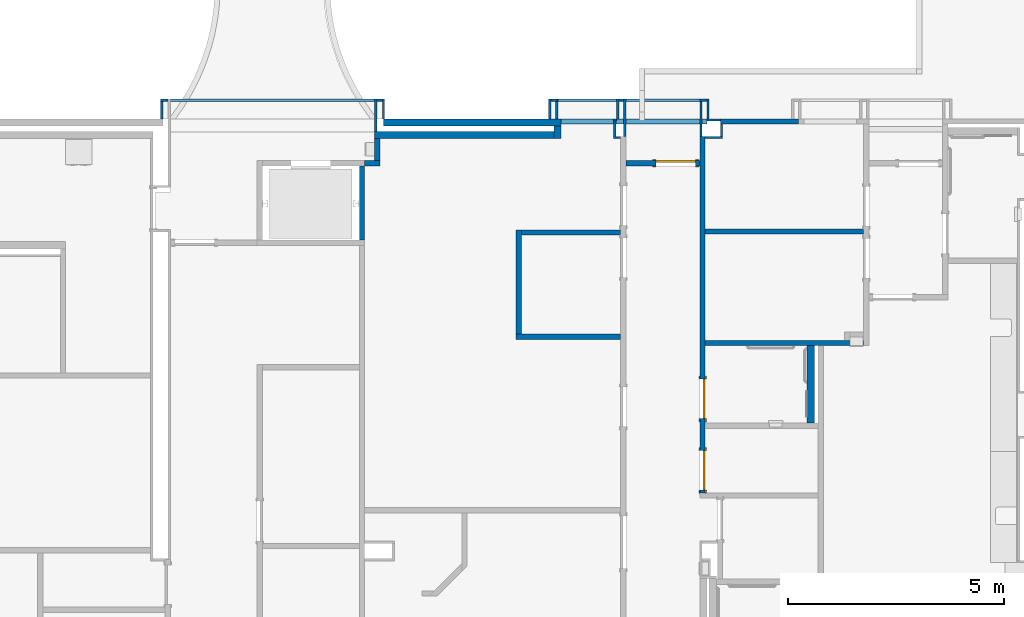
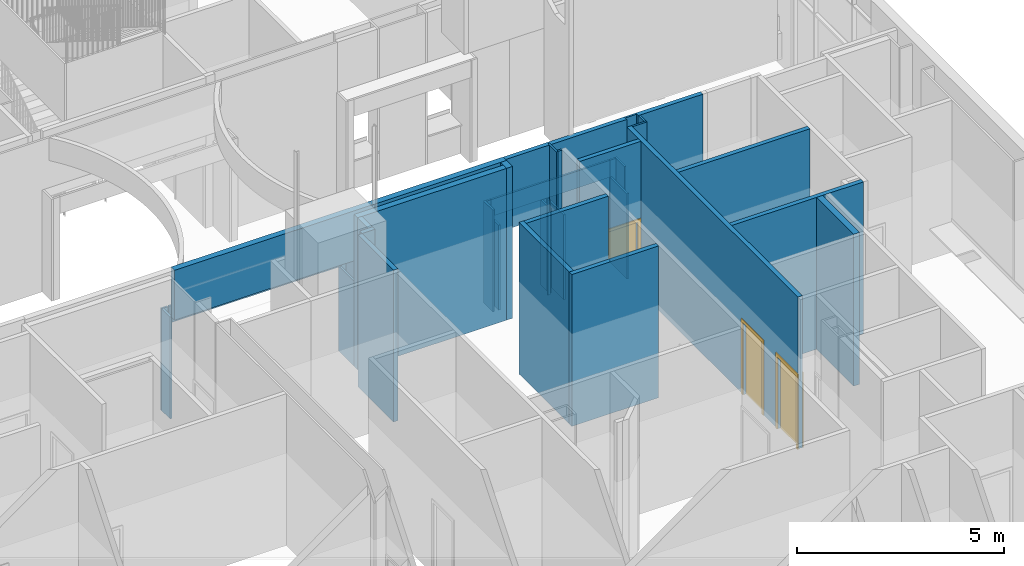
# One storey, part 36 of 87: 38 walls, 3 doors, 4 openings.
"""IFC2X3 building model written with IfcOpenShell, lengths in metres."""

from ifc_helpers import new_model, entity, si_unit, converted_unit, frame, frame_2d, origin, origin_2d_with_axis, place, context, project, spatial, polyline, rectangle, outline, extrude, clip, halfspace, source, transform, mapped, material, layer, layer_set, layer_usage, type_object, type_shapes, element, fill, save


model = new_model("IFC2X3")

# Units and contexts
model_context = context("Model", 3, precision=1e-09, world=origin())
plan_context = context("Plan", 3, precision=1e-09, world=origin())
ifc_project = project(units=[si_unit("LENGTHUNIT", "METRE"), si_unit("AREAUNIT", "SQUARE_METRE"), si_unit("VOLUMEUNIT", "CUBIC_METRE"), converted_unit("PLANEANGLEUNIT", "DEGREE", entity("IfcRatioMeasure", 0.01745329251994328), si_unit("PLANEANGLEUNIT", "RADIAN"), dimensions=[0, 0, 0, 0, 0, 0, 0]), si_unit("TIMEUNIT", "SECOND")], contexts=[model_context, plan_context])

# Site, building, storey
site_placement = place(None, origin())
site = spatial("IfcSite", under=ifc_project, at=site_placement, Name="Default", CompositionType="ELEMENT")
building_placement = place(site_placement, origin())
building = spatial("IfcBuilding", under=site, at=building_placement, CompositionType="ELEMENT")
storey_placement = place(building_placement, origin())
storey = spatial("IfcBuildingStorey", under=building, at=storey_placement, Name="First Floor", CompositionType="ELEMENT", Elevation=-3.531500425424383e-13)

# Walls
ifc_material_1 = material(Name="Plasterboard")
ifc_layer_1 = layer(ifc_material_1, 0.016)
ifc_material_2 = material(Name="Metal - Stud Layer")
ifc_layer_2 = layer(ifc_material_2, 0.092)
ifc_layer_3 = layer(ifc_material_1, 0.016)
ifc_layer_set_1 = layer_set([ifc_layer_1, ifc_layer_2, ifc_layer_3], Name="Basic Wall:Interior - Partition (92mm Stud)")
ifc_layer_usage_1 = layer_usage(ifc_layer_set_1, "AXIS2", "NEGATIVE", 0.062)
wall_1_placement = place(storey_placement, frame((-3.793975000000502, 23.42199999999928, 0.0), z_axis=(0.0, 0.0, 1.0), x_axis=(-1.0, 0.0, 0.0)))
element("IfcWallStandardCase", 1, at=wall_1_placement, inside=storey, material=ifc_layer_usage_1, Name="Basic Wall:Interior - Partition (92mm Stud)", ObjectType="Basic Wall:Interior - Partition (92mm Stud)", context=model_context, shape_type="SweptSolid", body=[
    extrude(rectangle(XDim=3.662000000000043, YDim=0.1239999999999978, at=frame_2d((1.831000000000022, 0.0), x_axis=(-1.0, 0.0))), origin(), (0.0, 0.0, 1.0), 4.46800000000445),
])
ifc_layer_usage_2 = layer_usage(ifc_layer_set_1, "AXIS2", "NEGATIVE", 0.062)
wall_2_placement = place(storey_placement, frame((-3.793975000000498, 26.00199999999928, 0.0), z_axis=(0.0, 0.0, 1.0), x_axis=(-1.0, 0.0, 0.0)))
element("IfcWallStandardCase", 2, at=wall_2_placement, inside=storey, material=ifc_layer_usage_2, Name="Basic Wall:Interior - Partition (92mm Stud)", ObjectType="Basic Wall:Interior - Partition (92mm Stud)", context=model_context, shape_type="SweptSolid", body=[
    extrude(rectangle(XDim=3.662000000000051, YDim=0.1239999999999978, at=frame_2d((1.831000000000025, 0.0), x_axis=(-1.0, 0.0))), origin(), (0.0, 0.0, 1.0), 4.46800000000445),
])
ifc_layer_usage_3 = layer_usage(ifc_layer_set_1, "AXIS2", "NEGATIVE", 0.062)
wall_3_placement = place(storey_placement, frame((-5.270722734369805, 28.54799999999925, 0.0), z_axis=(0.0, 0.0, 1.0), x_axis=(-1.0, 0.0, 0.0)))
element("IfcWallStandardCase", 3, at=wall_3_placement, inside=storey, material=ifc_layer_usage_3, Name="Basic Wall:Interior - Partition (92mm Stud)", ObjectType="Basic Wall:Interior - Partition (92mm Stud)", context=model_context, shape_type="SweptSolid", body=[
    extrude(rectangle(XDim=1.806277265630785, YDim=0.1240000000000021, at=frame_2d((0.9301386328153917, 0.0), x_axis=(-1.0, 0.0))), origin(), (0.0, 0.0, 1.0), 4.468000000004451),
])
ifc_layer_4 = layer(ifc_material_2, 0.038)
ifc_layer_5 = layer(ifc_material_1, 0.016)
ifc_layer_set_2 = layer_set([ifc_layer_4, ifc_layer_5], Name="Basic Wall:Interior - Furring (38 mm Stud)")
ifc_layer_usage_4 = layer_usage(ifc_layer_set_2, "AXIS2", "POSITIVE", -0.027)
wall_4_placement = place(storey_placement, frame((-7.418975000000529, 28.58299999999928, 0.0)))
element("IfcWallStandardCase", 4, at=wall_4_placement, inside=storey, material=ifc_layer_usage_4, Name="Basic Wall:Interior - Furring (38 mm Stud)", ObjectType="Basic Wall:Interior - Furring (38 mm Stud)", context=model_context, shape_type="SweptSolid", body=[
    extrude(rectangle(XDim=0.3149749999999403, YDim=0.05400000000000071, at=frame_2d((0.1574874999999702, 0.0), x_axis=(-1.0, 0.0))), origin(), (0.0, 0.0, 1.0), 4.46800000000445),
])

# Wall, openings, doors
ifc_layer_usage_5 = layer_usage(ifc_layer_set_1, "AXIS2", "NEGATIVE", 0.062)
wall_5_placement = place(storey_placement, frame((-7.517975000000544, 19.95399999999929, 0.0), z_axis=(0.0, 0.0, 1.0), x_axis=(0.0, 1.0, 0.0)))
wall_5 = element("IfcWallStandardCase", 5, at=wall_5_placement, inside=storey, material=ifc_layer_usage_5, Name="Basic Wall:Interior - Partition (92mm Stud)", ObjectType="Basic Wall:Interior - Partition (92mm Stud)", context=model_context, shape_type="SweptSolid", body=[
    extrude(rectangle(XDim=8.250000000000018, YDim=0.124, at=frame_2d((4.125000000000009, 0.0), x_axis=(-1.0, 0.0))), origin(), (0.0, 0.0, 1.0), 4.46800000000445),
])
opening_1_placement = place(wall_5_placement, frame((2.630999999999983, 0.06200000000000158, 0.0)))
opening_1 = element("IfcOpeningElement", 6, at=opening_1_placement, cuts=wall_5, Name="M_Single-Flush:0915 x 2134mm:0915 x 2134mm:1", ObjectType="Opening", context=model_context, shape_type="SweptSolid", body=[
    extrude(rectangle(XDim=0.9149999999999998, YDim=2.134, at=frame_2d((1.067, 0.4575), x_axis=(0.0, 1.0))), frame((0.0, 0.0, 0.0), z_axis=(0.0, -1.0, 0.0), x_axis=(0.0, 0.0, 1.0)), (0.0, 0.0, 1.0), 0.124),
])
opening_2_placement = place(wall_5_placement, frame((0.9749999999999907, 0.06200000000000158, 0.0)))
opening_2 = element("IfcOpeningElement", 7, at=opening_2_placement, cuts=wall_5, Name="M_Single-Flush:0915 x 2134mm:0915 x 2134mm:1", ObjectType="Opening", context=model_context, shape_type="SweptSolid", body=[
    extrude(rectangle(XDim=0.9149999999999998, YDim=2.134, at=frame_2d((1.067, 0.4575), x_axis=(0.0, 1.0))), frame((0.0, 0.0, 0.0), z_axis=(0.0, -1.0, 0.0), x_axis=(0.0, 0.0, 1.0)), (0.0, 0.0, 1.0), 0.124),
])
door_style = type_object("IfcDoorStyle", Name="0915 x 2134mm", ConstructionType="NOTDEFINED", OperationType="SINGLE_SWING_RIGHT", ParameterTakesPrecedence=False, Sizeable=False)
shared_shape = source(origin(), model_context, "Body", "SweptSolid", [
    extrude(outline(polyline([(-0.5335, -1.123999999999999), (0.5334999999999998, -1.123999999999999), (0.5334999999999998, 1.086), (0.4574999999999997, 1.086), (0.4574999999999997, -1.048000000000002), (-0.4574999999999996, -1.048000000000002), (-0.4574999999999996, 1.086), (-0.5335, 1.086), (-0.5335, -1.123999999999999)])), frame((0.4575000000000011, 0.1239999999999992, 1.086), z_axis=(0.0, 1.0, 0.0), x_axis=(1.0, 0.0, 0.0)), (0.0, 0.0, 1.0), 0.02499999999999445),
    extrude(outline(polyline([(-1.123999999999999, -0.5334999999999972), (1.085999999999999, -0.5334999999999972), (1.085999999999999, -0.4575000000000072), (-1.048, -0.4575000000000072), (-1.048, 0.4575000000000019), (1.085999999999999, 0.4575000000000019), (1.085999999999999, 0.5335000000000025), (-1.123999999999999, 0.5335000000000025), (-1.123999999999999, -0.5334999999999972)])), frame((0.4575000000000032, -0.02500000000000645, 1.085999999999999), z_axis=(0.0, 1.0, 0.0), x_axis=(0.0, 0.0, -1.0)), (0.0, 0.0, 1.0), 0.02500000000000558),
    extrude(rectangle(XDim=0.051, YDim=0.9149999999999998, at=origin_2d_with_axis()), frame((0.4575000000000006, 0.09849999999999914, 0.0), z_axis=(0.0, 0.0, 1.0), x_axis=(0.0, 1.0, 0.0)), (0.0, 0.0, 1.0), 2.133999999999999),
])
type_shapes(door_style, [shared_shape])
door_1_placement = place(opening_1_placement, frame((0.0, 0.0, 0.0), z_axis=(0.0, 0.0, 1.0), x_axis=(-1.0, 0.0, 0.0)))
door_1 = element("IfcDoor", 8, at=door_1_placement, inside=storey, type_object=door_style, Name="M_Single-Flush:0915 x 2134mm:0915 x 2134mm", ObjectType="0915 x 2134mm", OverallHeight=2.134, OverallWidth=0.9149999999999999, context=model_context, shape_type="MappedRepresentation", body=[
    mapped(shared_shape, transform((0.0, 0.0, 0.0), scale=1.0)),
])
fill(opening_1, door_1)
door_2_placement = place(opening_2_placement, frame((0.0, 0.0, 0.0), z_axis=(0.0, 0.0, 1.0), x_axis=(-1.0, 0.0, 0.0)))
door_2 = element("IfcDoor", 9, at=door_2_placement, inside=storey, type_object=door_style, Name="M_Single-Flush:0915 x 2134mm:0915 x 2134mm", ObjectType="0915 x 2134mm", OverallHeight=2.134, OverallWidth=0.9149999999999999, context=model_context, shape_type="MappedRepresentation", body=[
    mapped(shared_shape, transform((0.0, 0.0, 0.0), scale=1.0)),
])
fill(opening_2, door_2)

# Walls
ifc_layer_6 = layer(ifc_material_2, 0.152)
ifc_layer_7 = layer(ifc_material_1, 0.016)
ifc_layer_set_3 = layer_set([ifc_layer_6, ifc_layer_7], Name="Basic Wall:Interior - Furring (152 mm Stud)")
ifc_layer_usage_6 = layer_usage(ifc_layer_set_3, "AXIS2", "POSITIVE", -0.08399999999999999)
wall_6_placement = place(storey_placement, frame((-5.015975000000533, 21.56999999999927, 0.0), z_axis=(0.0, 0.0, 1.0), x_axis=(0.0, 1.0, 0.0)))
element("IfcWallStandardCase", 10, at=wall_6_placement, inside=storey, material=ifc_layer_usage_6, Name="Basic Wall:Interior - Furring (152 mm Stud)", ObjectType="Basic Wall:Interior - Furring (152 mm Stud)", context=model_context, shape_type="SweptSolid", body=[
    extrude(rectangle(XDim=1.790000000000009, YDim=0.1680000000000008, at=frame_2d((0.8950000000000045, 0.0), x_axis=(-1.0, 0.0))), origin(), (0.0, 0.0, 1.0), 4.46800000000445),
])
ifc_layer_usage_7 = layer_usage(ifc_layer_set_1, "AXIS2", "NEGATIVE", 0.062)
wall_7_placement = place(storey_placement, frame((-9.413975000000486, 23.56200042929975, 0.0), z_axis=(0.0, 0.0, 1.0), x_axis=(-1.0, 0.0, 0.0)))
element("IfcWallStandardCase", 11, at=wall_7_placement, inside=storey, material=ifc_layer_usage_7, Name="Basic Wall:Interior - Partition (92mm Stud)", ObjectType="Basic Wall:Interior - Partition (92mm Stud)", context=model_context, shape_type="SweptSolid", body=[
    extrude(rectangle(XDim=2.416000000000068, YDim=0.1239999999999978, at=frame_2d((1.208000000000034, 0.0), x_axis=(-1.0, 0.0))), origin(), (0.0, 0.0, 1.0), 4.46800000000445),
])
ifc_layer_usage_8 = layer_usage(ifc_layer_set_1, "AXIS2", "NEGATIVE", 0.062)
wall_8_placement = place(storey_placement, frame((-11.76797500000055, 23.62400042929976, 0.0), z_axis=(0.0, 0.0, 1.0), x_axis=(0.0, 1.0, 0.0)))
element("IfcWallStandardCase", 12, at=wall_8_placement, inside=storey, material=ifc_layer_usage_8, Name="Basic Wall:Interior - Partition (92mm Stud)", ObjectType="Basic Wall:Interior - Partition (92mm Stud)", context=model_context, shape_type="SweptSolid", body=[
    extrude(rectangle(XDim=2.415999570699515, YDim=0.1240000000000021, at=frame_2d((1.207999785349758, 0.0), x_axis=(-1.0, 0.0))), origin(), (0.0, 0.0, 1.0), 4.468000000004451),
])
ifc_layer_usage_9 = layer_usage(ifc_layer_set_1, "AXIS2", "NEGATIVE", 0.062)
wall_9_placement = place(storey_placement, frame((-11.70597500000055, 25.97799999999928, 0.0)))
element("IfcWallStandardCase", 13, at=wall_9_placement, inside=storey, material=ifc_layer_usage_9, Name="Basic Wall:Interior - Partition (92mm Stud)", ObjectType="Basic Wall:Interior - Partition (92mm Stud)", context=model_context, shape_type="SweptSolid", body=[
    extrude(rectangle(XDim=2.292000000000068, YDim=0.1239999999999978, at=frame_2d((1.146000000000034, 0.0), x_axis=(-1.0, 0.0))), origin(), (0.0, 0.0, 1.0), 4.46800000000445),
])

# Wall, opening
ifc_layer_usage_10 = layer_usage(ifc_layer_set_3, "AXIS2", "POSITIVE", -0.08399999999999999)
wall_10_placement = place(storey_placement, frame((-20.03300000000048, 28.52599999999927, 0.0)))
wall_10 = element("IfcWallStandardCase", 14, at=wall_10_placement, inside=storey, material=ifc_layer_usage_10, Name="Basic Wall:Interior - Furring (152 mm Stud)", ObjectType="Basic Wall:Interior - Furring (152 mm Stud)", context=model_context, shape_type="Clipping", body=[
    clip(extrude(rectangle(XDim=9.241151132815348, YDim=0.1679999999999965, at=frame_2d((4.620575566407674, 0.0), x_axis=(-1.0, 0.0))), origin(), (0.0, 0.0, 1.0), 4.468000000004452), halfspace(frame((5.130999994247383, 0.0, 0.0), z_axis=(-0.5047390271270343, 0.0, -0.8632719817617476), x_axis=(0.0, -1.0, 0.0)), False)),
])
opening_3_placement = place(wall_10_placement, frame((3.420666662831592, 0.0839999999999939, 2.0)))
element("IfcOpeningElement", 15, at=opening_3_placement, cuts=wall_10, Name="Basic Wall:Interior - Furring (152 mm Stud):2", ObjectType="Opening", context=model_context, shape_type="SweptSolid", body=[
    extrude(outline(polyline([(-2.0, -1.710333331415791), (1.0, -1.710333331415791), (1.0, 3.420666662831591), (-2.0, -1.710333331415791)])), frame((0.0, 0.0, 0.0), z_axis=(0.0, -1.0, 0.0), x_axis=(0.0, 0.0, 1.0)), (0.0, 0.0, 1.0), 0.168),
])

# Walls
ifc_layer_usage_11 = layer_usage(ifc_layer_set_3, "AXIS2", "POSITIVE", -0.08399999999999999)
wall_11_placement = place(storey_placement, frame((-10.87584886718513, 28.44199999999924, 0.0), z_axis=(0.0, 0.0, 1.0), x_axis=(0.0, -1.0, 0.0)))
element("IfcWallStandardCase", 16, at=wall_11_placement, inside=storey, material=ifc_layer_usage_11, Name="Basic Wall:Interior - Furring (152 mm Stud)", ObjectType="Basic Wall:Interior - Furring (152 mm Stud)", context=model_context, shape_type="SweptSolid", body=[
    extrude(rectangle(XDim=0.2919999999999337, YDim=0.1680000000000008, at=frame_2d((0.1459999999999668, 0.0), x_axis=(-1.0, 0.0))), origin(), (0.0, 0.0, 1.0), 4.46800000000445),
])
ifc_layer_usage_12 = layer_usage(ifc_layer_set_3, "AXIS2", "POSITIVE", -0.08399999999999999)
wall_12_placement = place(storey_placement, frame((-10.95984886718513, 28.23399999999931, 0.0), z_axis=(0.0, 0.0, 1.0), x_axis=(-1.0, 0.0, 0.0)))
element("IfcWallStandardCase", 17, at=wall_12_placement, inside=storey, material=ifc_layer_usage_12, Name="Basic Wall:Interior - Furring (152 mm Stud)", ObjectType="Basic Wall:Interior - Furring (152 mm Stud)", context=model_context, shape_type="SweptSolid", body=[
    extrude(rectangle(XDim=4.150151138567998, YDim=0.1679999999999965, at=frame_2d((2.075075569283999, 0.0), x_axis=(-1.0, 0.0))), origin(), (0.0, 0.0, 1.0), 4.46800000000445),
])
ifc_layer_usage_13 = layer_usage(ifc_layer_set_1, "AXIS2", "NEGATIVE", 0.062)
wall_13_placement = place(storey_placement, frame((-15.04797500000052, 27.64589999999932, 0.0), z_axis=(0.0, 0.0, 1.0), x_axis=(0.0, 1.0, 0.0)))
element("IfcWallStandardCase", 18, at=wall_13_placement, inside=storey, material=ifc_layer_usage_13, Name="Basic Wall:Interior - Partition (92mm Stud)", ObjectType="Basic Wall:Interior - Partition (92mm Stud)", context=model_context, shape_type="SweptSolid", body=[
    extrude(rectangle(XDim=0.5041000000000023, YDim=0.1240000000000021, at=frame_2d((0.2520500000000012, 0.0), x_axis=(-1.0, 0.0))), origin(), (0.0, 0.0, 1.0), 4.46800000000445),
])

# Wall, opening, door
ifc_layer_usage_14 = layer_usage(ifc_layer_set_1, "AXIS2", "NEGATIVE", 0.062)
wall_14_placement = place(storey_placement, frame((-7.579975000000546, 27.58199999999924, 0.0), z_axis=(0.0, 0.0, 1.0), x_axis=(-1.0, 0.0, 0.0)))
wall_14 = element("IfcWallStandardCase", 19, at=wall_14_placement, inside=storey, material=ifc_layer_usage_14, Name="Basic Wall:Interior - Partition (92mm Stud)", ObjectType="Basic Wall:Interior - Partition (92mm Stud)", context=model_context, shape_type="SweptSolid", body=[
    extrude(rectangle(XDim=1.709999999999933, YDim=0.1239999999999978, at=frame_2d((0.8549999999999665, 0.0), x_axis=(-1.0, 0.0))), origin(), (0.0, 0.0, 1.0), 4.46800000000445),
])
opening_4_placement = place(wall_14_placement, frame((1.015000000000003, 0.0619999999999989, 0.0)))
opening_4 = element("IfcOpeningElement", 20, at=opening_4_placement, cuts=wall_14, Name="M_Single-Flush:0915 x 2134mm:0915 x 2134mm:1", ObjectType="Opening", context=model_context, shape_type="SweptSolid", body=[
    extrude(rectangle(XDim=0.9150000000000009, YDim=2.134, at=frame_2d((1.067, 0.4575), x_axis=(0.0, 1.0))), frame((0.0, 0.0, 0.0), z_axis=(0.0, -1.0, 0.0), x_axis=(0.0, 0.0, 1.0)), (0.0, 0.0, 1.0), 0.124),
])
door_3_placement = place(opening_4_placement, frame((0.0, 0.0, 0.0), z_axis=(0.0, 0.0, 1.0), x_axis=(-1.0, 0.0, 0.0)))
door_3 = element("IfcDoor", 21, at=door_3_placement, inside=storey, type_object=door_style, Name="M_Single-Flush:0915 x 2134mm:0915 x 2134mm", ObjectType="0915 x 2134mm", OverallHeight=2.134, OverallWidth=0.9149999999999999, context=model_context, shape_type="MappedRepresentation", body=[
    mapped(shared_shape, transform((0.0, 0.0, 0.0), scale=1.0)),
])
fill(opening_4, door_3)

# Walls
ifc_layer_usage_15 = layer_usage(ifc_layer_set_1, "AXIS2", "NEGATIVE", 0.062)
wall_15_placement = place(storey_placement, frame((-7.391975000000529, 28.54799999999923, 2.4), z_axis=(0.0, 0.0, 1.0), x_axis=(-1.0, 0.0, 0.0)))
element("IfcWallStandardCase", 22, at=wall_15_placement, inside=storey, material=ifc_layer_usage_15, Name="Basic Wall:Interior - Partition (92mm Stud)", ObjectType="Basic Wall:Interior - Partition (92mm Stud)", context=model_context, shape_type="SweptSolid", body=[
    extrude(rectangle(XDim=3.372873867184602, YDim=0.1240000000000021, at=frame_2d((1.713436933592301, 0.0), x_axis=(-1.0, 0.0))), origin(), (0.0, 0.0, 1.0), 2.06800000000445),
])
ifc_layer_usage_16 = layer_usage(ifc_layer_set_2, "AXIS2", "NEGATIVE", 0.027)
wall_16_placement = place(storey_placement, frame((-7.455975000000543, 28.17699999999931, 0.0)))
element("IfcWallStandardCase", 23, at=wall_16_placement, inside=storey, material=ifc_layer_usage_16, Name="Basic Wall:Interior - Furring (38 mm Stud)", ObjectType="Basic Wall:Interior - Furring (38 mm Stud)", context=model_context, shape_type="SweptSolid", body=[
    extrude(rectangle(XDim=0.4059749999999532, YDim=0.05399999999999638, at=frame_2d((0.2029874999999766, 0.0), x_axis=(-1.0, 0.0))), origin(), (0.0, 0.0, 1.0), 4.46800000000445),
])
ifc_layer_usage_17 = layer_usage(ifc_layer_set_2, "AXIS2", "NEGATIVE", 0.027)
wall_17_placement = place(storey_placement, frame((-7.07700000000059, 28.20399999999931, 0.0), z_axis=(0.0, 0.0, 1.0), x_axis=(0.0, 1.0, 0.0)))
element("IfcWallStandardCase", 24, at=wall_17_placement, inside=storey, material=ifc_layer_usage_17, Name="Basic Wall:Interior - Furring (38 mm Stud)", ObjectType="Basic Wall:Interior - Furring (38 mm Stud)", context=model_context, shape_type="SweptSolid", body=[
    extrude(rectangle(XDim=0.2819999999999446, YDim=0.05400000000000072, at=frame_2d((0.1409999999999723, 0.0), x_axis=(-1.0, 0.0))), origin(), (0.0, 0.0, 1.0), 4.46800000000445),
])
ifc_layer_usage_18 = layer_usage(ifc_layer_set_2, "AXIS2", "NEGATIVE", 0.027)
wall_18_placement = place(storey_placement, frame((-7.391975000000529, 28.60999999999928, 0.0), z_axis=(0.0, 0.0, 1.0), x_axis=(0.0, 1.0, 0.0)))
element("IfcWallStandardCase", 25, at=wall_18_placement, inside=storey, material=ifc_layer_usage_18, Name="Basic Wall:Interior - Furring (38 mm Stud)", ObjectType="Basic Wall:Interior - Furring (38 mm Stud)", context=model_context, shape_type="SweptSolid", body=[
    extrude(rectangle(XDim=0.4599999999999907, YDim=0.05400000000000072, at=frame_2d((0.2299999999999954, 0.0), x_axis=(-1.0, 0.0))), origin(), (0.0, 0.0, 1.0), 3.0),
])
ifc_layer_usage_19 = layer_usage(ifc_layer_set_2, "AXIS2", "NEGATIVE", 0.027)
wall_19_placement = place(storey_placement, frame((-7.418975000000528, 29.04299999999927, 0.0), z_axis=(0.0, 0.0, 1.0), x_axis=(-1.0, 0.0, 0.0)))
element("IfcWallStandardCase", 26, at=wall_19_placement, inside=storey, material=ifc_layer_usage_19, Name="Basic Wall:Interior - Furring (38 mm Stud)", ObjectType="Basic Wall:Interior - Furring (38 mm Stud)", context=model_context, shape_type="SweptSolid", body=[
    extrude(rectangle(XDim=0.1610000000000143, YDim=0.05399999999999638, at=frame_2d((0.08050000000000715, 0.0), x_axis=(-1.0, 0.0))), origin(), (0.0, 0.0, 1.0), 3.0),
])
ifc_layer_usage_20 = layer_usage(ifc_layer_set_2, "AXIS2", "NEGATIVE", 0.027)
wall_20_placement = place(storey_placement, frame((-7.552975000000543, 29.01599999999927, 0.0), z_axis=(0.0, 0.0, 1.0), x_axis=(0.0, -1.0, 0.0)))
element("IfcWallStandardCase", 27, at=wall_20_placement, inside=storey, material=ifc_layer_usage_20, Name="Basic Wall:Interior - Furring (38 mm Stud)", ObjectType="Basic Wall:Interior - Furring (38 mm Stud)", context=model_context, shape_type="SweptSolid", body=[
    extrude(rectangle(XDim=0.8119999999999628, YDim=0.05400000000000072, at=frame_2d((0.4059999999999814, 0.0), x_axis=(-1.0, 0.0))), origin(), (0.0, 0.0, 1.0), 2.5),
])
ifc_layer_usage_21 = layer_usage(ifc_layer_set_2, "AXIS2", "POSITIVE", -0.027)
wall_21_placement = place(storey_placement, frame((-9.316975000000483, 29.06999999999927, 0.0), z_axis=(0.0, 0.0, 1.0), x_axis=(0.0, -1.0, 0.0)))
element("IfcWallStandardCase", 28, at=wall_21_placement, inside=storey, material=ifc_layer_usage_21, Name="Basic Wall:Interior - Furring (38 mm Stud)", ObjectType="Basic Wall:Interior - Furring (38 mm Stud)", context=model_context, shape_type="SweptSolid", body=[
    extrude(rectangle(XDim=0.8659999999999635, YDim=0.05400000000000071, at=frame_2d((0.4329999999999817, 0.0), x_axis=(-1.0, 0.0))), origin(), (0.0, 0.0, 1.0), 2.5),
])
ifc_layer_usage_22 = layer_usage(ifc_layer_set_2, "AXIS2", "POSITIVE", -0.027)
wall_22_placement = place(storey_placement, frame((-9.47797500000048, 28.60999999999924, 0.0), z_axis=(0.0, 0.0, 1.0), x_axis=(0.0, 1.0, 0.0)))
element("IfcWallStandardCase", 29, at=wall_22_placement, inside=storey, material=ifc_layer_usage_22, Name="Basic Wall:Interior - Furring (38 mm Stud)", ObjectType="Basic Wall:Interior - Furring (38 mm Stud)", context=model_context, shape_type="SweptSolid", body=[
    extrude(rectangle(XDim=0.4600000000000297, YDim=0.05400000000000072, at=frame_2d((0.2300000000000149, 0.0), x_axis=(-1.0, 0.0))), origin(), (0.0, 0.0, 1.0), 2.5),
])
ifc_layer_usage_23 = layer_usage(ifc_layer_set_2, "AXIS2", "POSITIVE", -0.027)
wall_23_placement = place(storey_placement, frame((-9.45097500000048, 29.04299999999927, 0.0)))
element("IfcWallStandardCase", 30, at=wall_23_placement, inside=storey, material=ifc_layer_usage_23, Name="Basic Wall:Interior - Furring (38 mm Stud)", ObjectType="Basic Wall:Interior - Furring (38 mm Stud)", context=model_context, shape_type="SweptSolid", body=[
    extrude(rectangle(XDim=0.1069999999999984, YDim=0.05399999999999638, at=frame_2d((0.05349999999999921, 0.0), x_axis=(-1.0, 0.0))), origin(), (0.0, 0.0, 1.0), 2.5),
])
ifc_layer_usage_24 = layer_usage(ifc_layer_set_2, "AXIS2", "POSITIVE", -0.027)
wall_24_placement = place(storey_placement, frame((-10.89072273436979, 29.06999999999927, 0.0), z_axis=(0.0, 0.0, 1.0), x_axis=(0.0, -1.0, 0.0)))
element("IfcWallStandardCase", 31, at=wall_24_placement, inside=storey, material=ifc_layer_usage_24, Name="Basic Wall:Interior - Furring (38 mm Stud)", ObjectType="Basic Wall:Interior - Furring (38 mm Stud)", context=model_context, shape_type="SweptSolid", body=[
    extrude(rectangle(XDim=0.4600000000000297, YDim=0.05400000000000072, at=frame_2d((0.2300000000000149, 0.0), x_axis=(-1.0, 0.0))), origin(), (0.0, 0.0, 1.0), 2.5),
])
ifc_layer_usage_25 = layer_usage(ifc_layer_set_2, "AXIS2", "POSITIVE", -0.027)
wall_25_placement = place(storey_placement, frame((-11.05172273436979, 28.60999999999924, 0.0), z_axis=(0.0, 0.0, 1.0), x_axis=(0.0, 1.0, 0.0)))
element("IfcWallStandardCase", 32, at=wall_25_placement, inside=storey, material=ifc_layer_usage_25, Name="Basic Wall:Interior - Furring (38 mm Stud)", ObjectType="Basic Wall:Interior - Furring (38 mm Stud)", context=model_context, shape_type="SweptSolid", body=[
    extrude(rectangle(XDim=0.4600000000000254, YDim=0.05400000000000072, at=frame_2d((0.2300000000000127, 0.0), x_axis=(-1.0, 0.0))), origin(), (0.0, 0.0, 1.0), 3.0),
])
ifc_layer_usage_26 = layer_usage(ifc_layer_set_2, "AXIS2", "POSITIVE", -0.027)
wall_26_placement = place(storey_placement, frame((-11.02472273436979, 29.04299999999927, 0.0)))
element("IfcWallStandardCase", 33, at=wall_26_placement, inside=storey, material=ifc_layer_usage_26, Name="Basic Wall:Interior - Furring (38 mm Stud)", ObjectType="Basic Wall:Interior - Furring (38 mm Stud)", context=model_context, shape_type="SweptSolid", body=[
    extrude(rectangle(XDim=0.1339999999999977, YDim=0.05399999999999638, at=frame_2d((0.06699999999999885, 0.0), x_axis=(-1.0, 0.0))), origin(), (0.0, 0.0, 1.0), 3.0),
])
ifc_layer_usage_27 = layer_usage(ifc_layer_set_2, "AXIS2", "NEGATIVE", 0.027)
wall_27_placement = place(storey_placement, frame((-9.50497500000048, 28.58299999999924, 0.0), z_axis=(0.0, 0.0, 1.0), x_axis=(-1.0, 0.0, 0.0)))
element("IfcWallStandardCase", 34, at=wall_27_placement, inside=storey, material=ifc_layer_usage_27, Name="Basic Wall:Interior - Furring (38 mm Stud)", ObjectType="Basic Wall:Interior - Furring (38 mm Stud)", context=model_context, shape_type="SweptSolid", body=[
    extrude(rectangle(XDim=0.0718738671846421, YDim=0.05399999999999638, at=frame_2d((0.03593693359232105, 0.0), x_axis=(-1.0, 0.0))), origin(), (0.0, 0.0, 1.0), 2.8),
])
ifc_layer_usage_28 = layer_usage(ifc_layer_set_2, "AXIS2", "NEGATIVE", 0.027)
wall_28_placement = place(storey_placement, frame((-9.549848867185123, 28.55599999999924, 0.0), z_axis=(0.0, 0.0, 1.0), x_axis=(0.0, -1.0, 0.0)))
element("IfcWallStandardCase", 35, at=wall_28_placement, inside=storey, material=ifc_layer_usage_28, Name="Basic Wall:Interior - Furring (38 mm Stud)", ObjectType="Basic Wall:Interior - Furring (38 mm Stud)", context=model_context, shape_type="SweptSolid", body=[
    extrude(rectangle(XDim=0.405999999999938, YDim=0.05400000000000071, at=frame_2d((0.202999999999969, 0.0), x_axis=(-1.0, 0.0))), origin(), (0.0, 0.0, 1.0), 4.468000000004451),
])
ifc_layer_usage_29 = layer_usage(ifc_layer_set_2, "AXIS2", "NEGATIVE", 0.027)
wall_29_placement = place(storey_placement, frame((-9.522848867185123, 28.1769999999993, 0.0)))
element("IfcWallStandardCase", 36, at=wall_29_placement, inside=storey, material=ifc_layer_usage_29, Name="Basic Wall:Interior - Furring (38 mm Stud)", ObjectType="Basic Wall:Interior - Furring (38 mm Stud)", context=model_context, shape_type="SweptSolid", body=[
    extrude(rectangle(XDim=0.1088738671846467, YDim=0.05399999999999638, at=frame_2d((0.05443693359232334, 0.0), x_axis=(-1.0, 0.0))), origin(), (0.0, 0.0, 1.0), 4.46800000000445),
])
ifc_layer_usage_30 = layer_usage(ifc_layer_set_2, "AXIS2", "POSITIVE", -0.027)
wall_30_placement = place(storey_placement, frame((-14.9020000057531, 29.06999999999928, 0.0), z_axis=(0.0, 0.0, 1.0), x_axis=(0.0, -1.0, 0.0)))
element("IfcWallStandardCase", 37, at=wall_30_placement, inside=storey, material=ifc_layer_usage_30, Name="Basic Wall:Interior - Furring (38 mm Stud)", ObjectType="Basic Wall:Interior - Furring (38 mm Stud)", context=model_context, shape_type="SweptSolid", body=[
    extrude(rectangle(XDim=0.4600000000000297, YDim=0.05400000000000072, at=frame_2d((0.2300000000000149, 0.0), x_axis=(-1.0, 0.0))), origin(), (0.0, 0.0, 1.0), 3.0),
])
ifc_layer_usage_31 = layer_usage(ifc_layer_set_2, "AXIS2", "POSITIVE", -0.027)
wall_31_placement = place(storey_placement, frame((-15.08300000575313, 28.31799999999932, 0.0), z_axis=(0.0, 0.0, 1.0), x_axis=(0.0, 1.0, 0.0)))
element("IfcWallStandardCase", 38, at=wall_31_placement, inside=storey, material=ifc_layer_usage_31, Name="Basic Wall:Interior - Furring (38 mm Stud)", ObjectType="Basic Wall:Interior - Furring (38 mm Stud)", context=model_context, shape_type="SweptSolid", body=[
    extrude(rectangle(XDim=0.7519999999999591, YDim=0.05400000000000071, at=frame_2d((0.3759999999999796, 0.0), x_axis=(-1.0, 0.0))), origin(), (0.0, 0.0, 1.0), 2.5),
])
ifc_layer_usage_32 = layer_usage(ifc_layer_set_2, "AXIS2", "POSITIVE", -0.027)
wall_32_placement = place(storey_placement, frame((-15.08300000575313, 29.04299999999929, 0.0)))
element("IfcWallStandardCase", 39, at=wall_32_placement, inside=storey, material=ifc_layer_usage_32, Name="Basic Wall:Interior - Furring (38 mm Stud)", ObjectType="Basic Wall:Interior - Furring (38 mm Stud)", context=model_context, shape_type="SweptSolid", body=[
    extrude(rectangle(XDim=0.1270000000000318, YDim=0.05400000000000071, at=frame_2d((0.09050000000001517, 0.0), x_axis=(-1.0, 0.0))), origin(), (0.0, 0.0, 1.0), 3.0),
])
ifc_layer_usage_33 = layer_usage(ifc_layer_set_2, "AXIS2", "NEGATIVE", 0.027)
wall_33_placement = place(storey_placement, frame((-19.85700000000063, 29.04299999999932, 0.0), z_axis=(0.0, 0.0, 1.0), x_axis=(-1.0, 0.0, 0.0)))
element("IfcWallStandardCase", 40, at=wall_33_placement, inside=storey, material=ifc_layer_usage_33, Name="Basic Wall:Interior - Furring (38 mm Stud)", ObjectType="Basic Wall:Interior - Furring (38 mm Stud)", context=model_context, shape_type="SweptSolid", body=[
    extrude(rectangle(XDim=0.1759999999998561, YDim=0.05400000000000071, at=frame_2d((0.1149999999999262, 0.0), x_axis=(-1.0, 0.0))), origin(), (0.0, 0.0, 1.0), 3.0),
])
ifc_layer_usage_34 = layer_usage(ifc_layer_set_2, "AXIS2", "NEGATIVE", 0.027)
wall_34_placement = place(storey_placement, frame((-20.03300000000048, 29.01599999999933, 0.0), z_axis=(0.0, 0.0, 1.0), x_axis=(0.0, -1.0, 0.0)))
element("IfcWallStandardCase", 41, at=wall_34_placement, inside=storey, material=ifc_layer_usage_34, Name="Basic Wall:Interior - Furring (38 mm Stud)", ObjectType="Basic Wall:Interior - Furring (38 mm Stud)", context=model_context, shape_type="SweptSolid", body=[
    extrude(rectangle(XDim=0.4060000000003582, YDim=0.05399999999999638, at=frame_2d((0.2030000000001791, 0.0), x_axis=(-1.0, 0.0))), origin(), (0.0, 0.0, 1.0), 3.0),
])
ifc_material_3 = material(Name="Type-X Plasterboard")
ifc_layer_8 = layer(ifc_material_3, 0.016)
ifc_layer_9 = layer(ifc_material_2, 0.092)
ifc_layer_10 = layer(ifc_material_3, 0.016)
ifc_layer_set_4 = layer_set([ifc_layer_8, ifc_layer_9, ifc_layer_10], Name="Basic Wall:Interior - Rated 1-HR (92mm Stud)")
ifc_layer_usage_35 = layer_usage(ifc_layer_set_4, "AXIS2", "NEGATIVE", 0.06200000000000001)
wall_35_placement = place(storey_placement, frame((-15.39800000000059, 25.80739999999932, 0.0), z_axis=(0.0, 0.0, 1.0), x_axis=(0.0, 1.0, 0.0)))
element("IfcWallStandardCase", 42, at=wall_35_placement, inside=storey, material=ifc_layer_usage_35, Name="Basic Wall:Interior - Rated 1-HR (92mm Stud)", ObjectType="Basic Wall:Interior - Rated 1-HR (92mm Stud)", context=model_context, shape_type="SweptSolid", body=[
    extrude(rectangle(XDim=1.714499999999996, YDim=0.1240000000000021, at=frame_2d((0.8572499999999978, 0.0), x_axis=(-1.0, 0.0))), origin(), (0.0, 0.0, 1.0), 4.46800000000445),
])
ifc_layer_usage_36 = layer_usage(ifc_layer_set_1, "AXIS2", "NEGATIVE", 0.062)
wall_36_placement = place(storey_placement, frame((-15.33600000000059, 27.58389999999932, 0.0)))
element("IfcWallStandardCase", 43, at=wall_36_placement, inside=storey, material=ifc_layer_usage_36, Name="Basic Wall:Interior - Partition (92mm Stud)", ObjectType="Basic Wall:Interior - Partition (92mm Stud)", context=model_context, shape_type="SweptSolid", body=[
    extrude(rectangle(XDim=0.3500250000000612, YDim=0.1239999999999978, at=frame_2d((0.1750125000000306, 0.0), x_axis=(-1.0, 0.0))), origin(), (0.0, 0.0, 1.0), 4.46800000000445),
])
ifc_layer_usage_37 = layer_usage(ifc_layer_set_2, "AXIS2", "POSITIVE", -0.027)
wall_37_placement = place(storey_placement, frame((-19.85700000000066, 29.04299999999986, 2.5)))
element("IfcWallStandardCase", 44, at=wall_37_placement, inside=storey, material=ifc_layer_usage_37, Name="Basic Wall:Interior - Furring (38 mm Stud)", ObjectType="Basic Wall:Interior - Furring (38 mm Stud)", context=model_context, shape_type="SweptSolid", body=[
    extrude(rectangle(XDim=4.77399999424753, YDim=0.05399999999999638, at=frame_2d((2.386999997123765, 0.0), x_axis=(-1.0, 0.0))), origin(), (0.0, 0.0, 1.0), 0.5),
])
ifc_layer_usage_38 = layer_usage(ifc_layer_set_2, "AXIS2", "POSITIVE", -0.027)
wall_38_placement = place(storey_placement, frame((-10.89072273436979, 29.04299999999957, 2.5)))
element("IfcWallStandardCase", 45, at=wall_38_placement, inside=storey, material=ifc_layer_usage_38, Name="Basic Wall:Interior - Furring (38 mm Stud)", ObjectType="Basic Wall:Interior - Furring (38 mm Stud)", context=model_context, shape_type="SweptSolid", body=[
    extrude(rectangle(XDim=3.337747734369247, YDim=0.05399999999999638, at=frame_2d((1.668873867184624, 0.0), x_axis=(-1.0, 0.0))), origin(), (0.0, 0.0, 1.0), 0.5),
])

save(model, "model.ifc")
